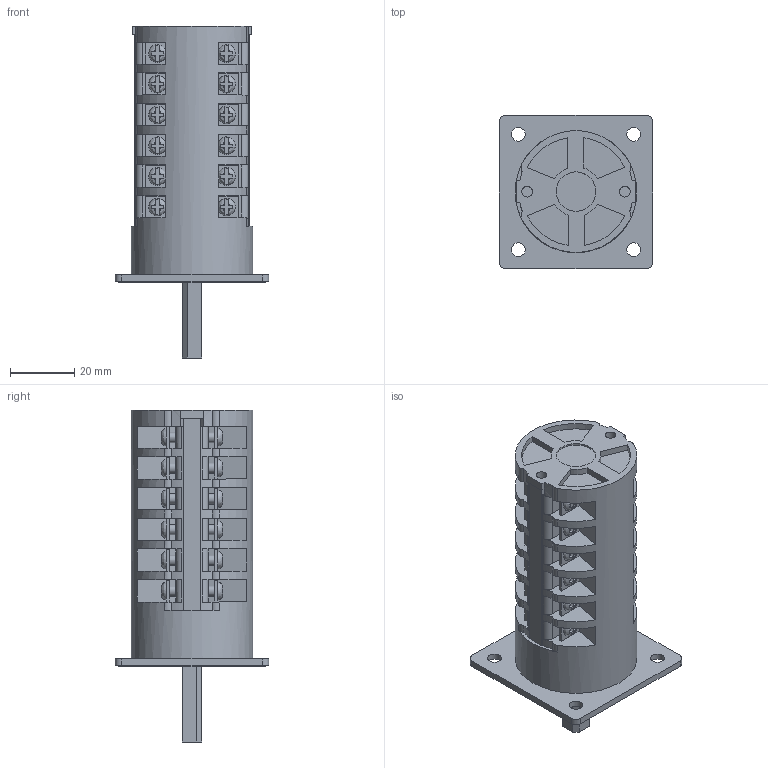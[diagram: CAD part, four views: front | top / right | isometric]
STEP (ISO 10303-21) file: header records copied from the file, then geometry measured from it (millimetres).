
FILE_DESCRIPTION(/* description */ (''),/* implementation_level */ '2;1');
FILE_NAME(/* name */ '4G10-U_standard_6_korpusow.stp',/* time_stamp */ '2021-07-21T07:44:16+02:00',/* author */ (''),/* organization */ (''),/* preprocessor_version */ 'ST-DEVELOPER v18.1',/* originating_system */ 'SIEMENS PLM Software NX 1965',/* authorisation */ '');
FILE_SCHEMA (('AUTOMOTIVE_DESIGN { 1 0 10303 214 3 1 1 1 }'));
Length unit declared in the file: millimetre
Products named in the file (1): 4G10-U_standard_6_korpusow_stp
Bounding box: 48 x 48 x 103.7 mm (x, y, z)
Volume: 77195 mm3; surface area: 26607.9 mm2
Topology: 1 solids, 1 shells, 865 faces, 2370 edges, 1580 vertices
Faces by surface type: plane 702, cylinder 137, bspline 24, torus 2
Full cylindrical faces by diameter (mm): 3.2 x24, 3.4 x3, 4.3 x4, 6.2 x2, 7.2 x4, 12.3 x1, 16.2 x1, 16.8 x1, 38 x1
Entity records: 27379 total; most frequent: CARTESIAN_POINT 6017, ORIENTED_EDGE 4494, DIRECTION 4237, EDGE_CURVE 2247, VERTEX_POINT 1524, LINE 1453, VECTOR 1453, AXIS2_PLACEMENT_3D 1392
